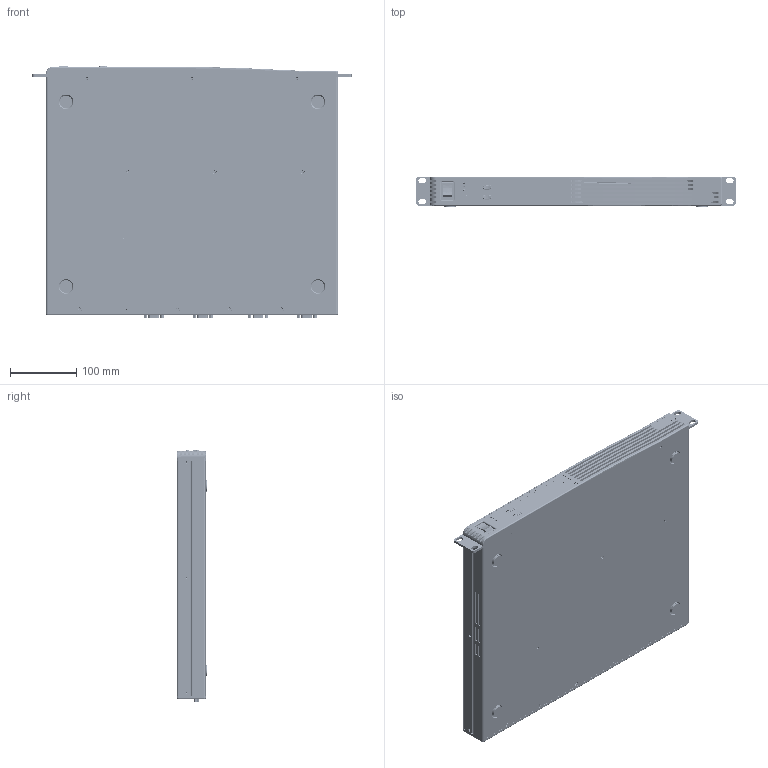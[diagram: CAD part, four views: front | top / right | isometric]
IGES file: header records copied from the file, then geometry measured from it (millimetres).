
Start section: SolidWorks IGES file using analytic representation for surfaces
Global section: file name: H:\Dropbox\Mechanical Engr\Development Projects (P)\7100 MultiSource Controller Series\Customer Model Development\7144\Step 6 - 7144 TLA.IGS; native system: SolidWorks 2019; preprocessor: SolidWorks 2019; author: mrhan; date: 200330.004639; units: inch
Bounding box: 482.6 x 46.14 x 382.13 mm (x, y, z)
Surface area: 455379.7 mm2 (no closed solid volume)
Topology: 0 solids, 0 shells, 6650 faces, 60405 edges, 60363 vertices
Faces by surface type: bspline 5395, revolution 1255
